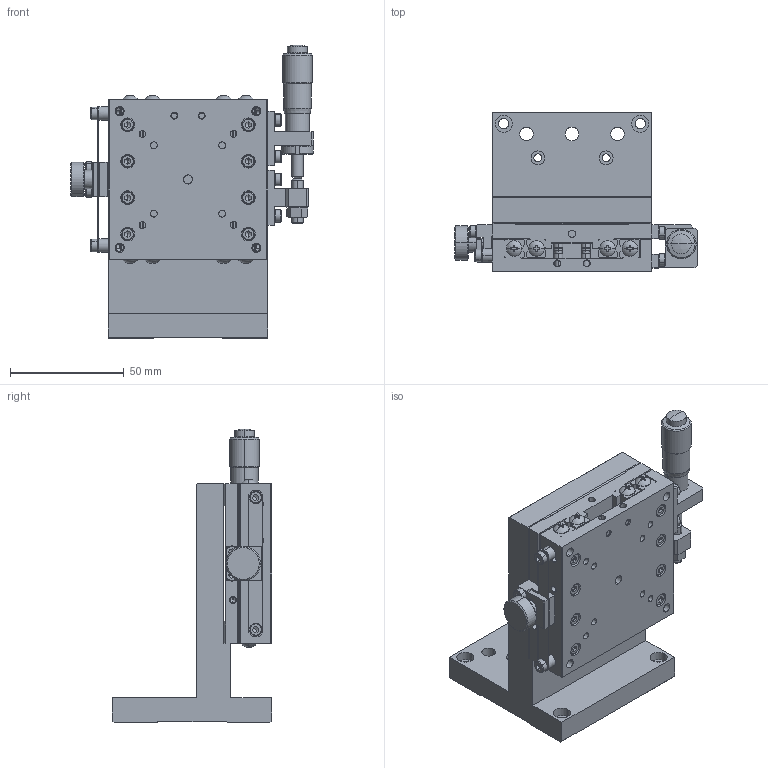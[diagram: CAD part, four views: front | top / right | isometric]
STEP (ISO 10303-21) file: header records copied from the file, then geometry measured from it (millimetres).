
FILE_DESCRIPTION (( 'STEP AP214' ), '1' );
FILE_NAME ('ZM07A-X1.STEP', '2007-08-07T02:21:11', ( ' ' ), ( ' ' ), 'SwSTEP 2.0', 'SolidWorks 2006052', '' );
FILE_SCHEMA (( 'AUTOMOTIVE_DESIGN' ));
Products named in the file (4): XM07A-S1Z(PL); 001490-1011(3D); 001490-1023(3D); ZM07A-X1
Assembly tree (3 placements, depth 3):
  ZM07A-X1
    XM07A-S1Z(PL)
      001490-1011(3D)
      001490-1023(3D)
Bounding box: 106.5 x 70 x 129 mm (x, y, z)
Volume: 227665.3 mm3; surface area: 80858.9 mm2
Topology: 2 solids, 53 shells, 2120 faces, 4991 edges, 2976 vertices
Faces by surface type: plane 990, cylinder 646, cone 448, sphere 20, torus 16
Entity records: 60732 total; most frequent: CARTESIAN_POINT 11218, DIRECTION 11001, ORIENTED_EDGE 9762, EDGE_CURVE 4881, AXIS2_PLACEMENT_3D 4197, VERTEX_POINT 2976, VECTOR 2607, LINE 2607
